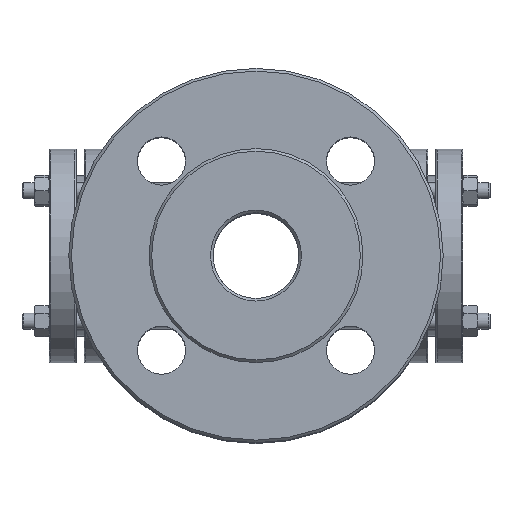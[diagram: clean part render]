
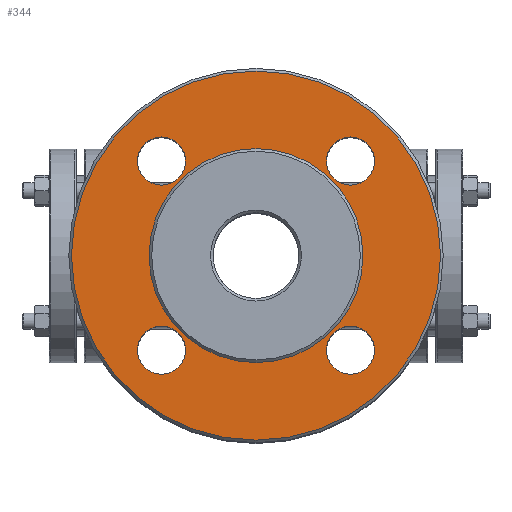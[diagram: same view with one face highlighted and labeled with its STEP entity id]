
A CAD part, top view. The second image highlights one B-rep face of the part: STEP entity #344.
In plain terms, the highlighted planar face has unit normal (0, 0, 1).
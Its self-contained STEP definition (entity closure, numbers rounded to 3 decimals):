
#344=ADVANCED_FACE('',(#2961,#2963,#2965,#2967,#2969,#2971),#2973,.T.);
#2961=FACE_BOUND('',#2962,.T.);
#2962=EDGE_LOOP('',(#8243));
#2963=FACE_BOUND('',#2964,.T.);
#2964=EDGE_LOOP('',(#8244));
#2965=FACE_BOUND('',#2966,.T.);
#2966=EDGE_LOOP('',(#8245));
#2967=FACE_BOUND('',#2968,.T.);
#2968=EDGE_LOOP('',(#8246));
#2969=FACE_BOUND('',#2970,.T.);
#2970=EDGE_LOOP('',(#8247));
#2971=FACE_BOUND('',#2972,.T.);
#2972=EDGE_LOOP('',(#8248));
#2973=PLANE('',#2974);
#2974=AXIS2_PLACEMENT_3D('',#2975,#2976,#2977);
#2975=CARTESIAN_POINT('',(0.,0.,89.));
#2976=DIRECTION('',(0.,0.,1.));
#2977=DIRECTION('',(1.,0.,0.));
#8243=ORIENTED_EDGE('',*,*,#10418,.F.);
#8244=ORIENTED_EDGE('',*,*,#10419,.T.);
#8245=ORIENTED_EDGE('',*,*,#10420,.T.);
#8246=ORIENTED_EDGE('',*,*,#10367,.F.);
#8247=ORIENTED_EDGE('',*,*,#10421,.F.);
#8248=ORIENTED_EDGE('',*,*,#10422,.F.);
#10367=EDGE_CURVE('',#11557,#11557,#11558,.T.);
#10418=EDGE_CURVE('',#11635,#11635,#11636,.T.);
#10419=EDGE_CURVE('',#11637,#11637,#11638,.T.);
#10420=EDGE_CURVE('',#11639,#11639,#11640,.T.);
#10421=EDGE_CURVE('',#11641,#11641,#11642,.T.);
#10422=EDGE_CURVE('',#11643,#11643,#11644,.T.);
#11557=VERTEX_POINT('',#14910);
#11558=CIRCLE('',#14911,40.);
#11635=VERTEX_POINT('',#16109);
#11636=CIRCLE('',#16110,69.);
#11637=VERTEX_POINT('',#16114);
#11638=CIRCLE('',#16115,9.);
#11639=VERTEX_POINT('',#16119);
#11640=CIRCLE('',#16120,9.);
#11641=VERTEX_POINT('',#16124);
#11642=CIRCLE('',#16125,9.);
#11643=VERTEX_POINT('',#16129);
#11644=CIRCLE('',#16130,9.);
#14910=CARTESIAN_POINT('',(40.,0.,89.));
#14911=AXIS2_PLACEMENT_3D('',#14912,#14913,#14914);
#14912=CARTESIAN_POINT('',(0.,0.,89.));
#14913=DIRECTION('',(0.,0.,1.));
#14914=DIRECTION('',(1.,0.,0.));
#16109=CARTESIAN_POINT('',(69.,0.,89.));
#16110=AXIS2_PLACEMENT_3D('',#16111,#16112,#16113);
#16111=CARTESIAN_POINT('',(0.,0.,89.));
#16112=DIRECTION('',(0.,0.,-1.));
#16113=DIRECTION('',(1.,0.,0.));
#16114=CARTESIAN_POINT('',(44.355,-35.355,89.));
#16115=AXIS2_PLACEMENT_3D('',#16116,#16117,#16118);
#16116=CARTESIAN_POINT('',(35.355,-35.355,89.));
#16117=DIRECTION('',(0.,0.,-1.));
#16118=DIRECTION('',(1.,0.,0.));
#16119=CARTESIAN_POINT('',(44.355,35.355,89.));
#16120=AXIS2_PLACEMENT_3D('',#16121,#16122,#16123);
#16121=CARTESIAN_POINT('',(35.355,35.355,89.));
#16122=DIRECTION('',(0.,0.,-1.));
#16123=DIRECTION('',(1.,0.,0.));
#16124=CARTESIAN_POINT('',(-44.355,-35.355,89.));
#16125=AXIS2_PLACEMENT_3D('',#16126,#16127,#16128);
#16126=CARTESIAN_POINT('',(-35.355,-35.355,89.));
#16127=DIRECTION('',(0.,0.,1.));
#16128=DIRECTION('',(-1.,0.,0.));
#16129=CARTESIAN_POINT('',(-44.355,35.355,89.));
#16130=AXIS2_PLACEMENT_3D('',#16131,#16132,#16133);
#16131=CARTESIAN_POINT('',(-35.355,35.355,89.));
#16132=DIRECTION('',(0.,0.,1.));
#16133=DIRECTION('',(-1.,0.,0.));
